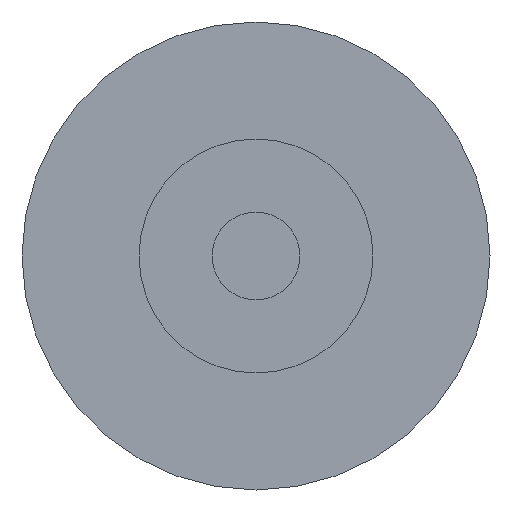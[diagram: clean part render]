
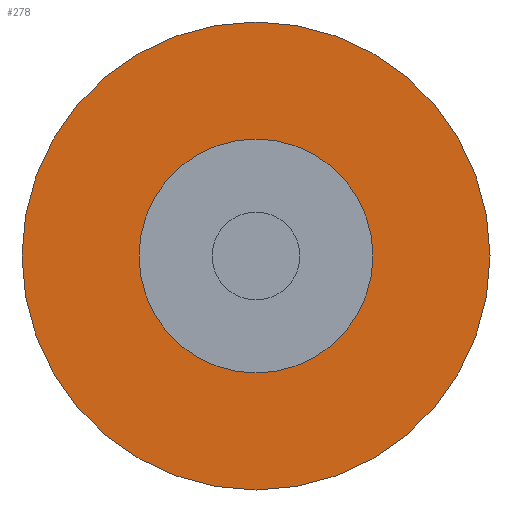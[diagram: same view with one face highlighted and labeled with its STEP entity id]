
A CAD part, front view. The second image highlights one B-rep face of the part: STEP entity #278.
In plain terms, the highlighted planar face has unit normal (0, -1, 0).
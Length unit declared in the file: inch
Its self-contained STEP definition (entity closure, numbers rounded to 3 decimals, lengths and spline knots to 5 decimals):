
#3 = AXIS2_PLACEMENT_3D ( 'NONE', #207, #204, #206 ) ;
#22 = FACE_BOUND ( 'NONE', #288, .T. ) ;
#29 = FACE_OUTER_BOUND ( 'NONE', #284, .T. ) ;
#30 = CIRCLE ( 'NONE', #62, 0.25 ) ;
#33 = CIRCLE ( 'NONE', #414, 0.5 ) ;
#39 = CIRCLE ( 'NONE', #255, 0.5 ) ;
#46 = CIRCLE ( 'NONE', #3, 0.25 ) ;
#62 = AXIS2_PLACEMENT_3D ( 'NONE', #164, #170, #173 ) ;
#69 = VERTEX_POINT ( 'NONE', #85 ) ;
#71 = VERTEX_POINT ( 'NONE', #87 ) ;
#78 = VERTEX_POINT ( 'NONE', #111 ) ;
#81 = VERTEX_POINT ( 'NONE', #112 ) ;
#85 = CARTESIAN_POINT ( 'NONE',  ( 0., -0.44, -0.25 ) ) ;
#87 = CARTESIAN_POINT ( 'NONE',  ( 0., -0.44, -0.5 ) ) ;
#111 = CARTESIAN_POINT ( 'NONE',  ( 0., -0.44, 0.25 ) ) ;
#112 = CARTESIAN_POINT ( 'NONE',  ( 0., -0.44, 0.5 ) ) ;
#156 = CARTESIAN_POINT ( 'NONE',  ( 0., -0.44, 0. ) ) ;
#160 = DIRECTION ( 'NONE',  ( 0., 0., 1. ) ) ;
#164 = CARTESIAN_POINT ( 'NONE',  ( 0., -0.44, 0. ) ) ;
#169 = PLANE ( 'NONE',  #421 ) ;
#170 = DIRECTION ( 'NONE',  ( 0., 1., 0. ) ) ;
#173 = DIRECTION ( 'NONE',  ( 0., 0., 1. ) ) ;
#181 = DIRECTION ( 'NONE',  ( 0., 0., 1. ) ) ;
#183 = DIRECTION ( 'NONE',  ( 0., 1., 0. ) ) ;
#188 = CARTESIAN_POINT ( 'NONE',  ( -1.10557, -0.44, 0. ) ) ;
#191 = DIRECTION ( 'NONE',  ( 0., 1., 0. ) ) ;
#204 = DIRECTION ( 'NONE',  ( 0., 1., 0. ) ) ;
#206 = DIRECTION ( 'NONE',  ( 0., 0., 1. ) ) ;
#207 = CARTESIAN_POINT ( 'NONE',  ( 0., -0.44, 0. ) ) ;
#225 = DIRECTION ( 'NONE',  ( 0., 1., 0. ) ) ;
#226 = CARTESIAN_POINT ( 'NONE',  ( 0., -0.44, 0. ) ) ;
#242 = DIRECTION ( 'NONE',  ( 0., 0., 1. ) ) ;
#255 = AXIS2_PLACEMENT_3D ( 'NONE', #226, #225, #242 ) ;
#278 = ADVANCED_FACE ( 'NONE', ( #22, #29 ), #169, .F. ) ;
#284 = EDGE_LOOP ( 'NONE', ( #355, #335 ) ) ;
#288 = EDGE_LOOP ( 'NONE', ( #316, #300 ) ) ;
#300 = ORIENTED_EDGE ( 'NONE', *, *, #390, .T. ) ;
#316 = ORIENTED_EDGE ( 'NONE', *, *, #408, .T. ) ;
#335 = ORIENTED_EDGE ( 'NONE', *, *, #385, .F. ) ;
#355 = ORIENTED_EDGE ( 'NONE', *, *, #429, .F. ) ;
#385 = EDGE_CURVE ( 'NONE', #71, #81, #33, .T. ) ;
#390 = EDGE_CURVE ( 'NONE', #69, #78, #30, .T. ) ;
#408 = EDGE_CURVE ( 'NONE', #78, #69, #46, .T. ) ;
#414 = AXIS2_PLACEMENT_3D ( 'NONE', #156, #183, #160 ) ;
#421 = AXIS2_PLACEMENT_3D ( 'NONE', #188, #191, #181 ) ;
#429 = EDGE_CURVE ( 'NONE', #81, #71, #39, .T. ) ;
